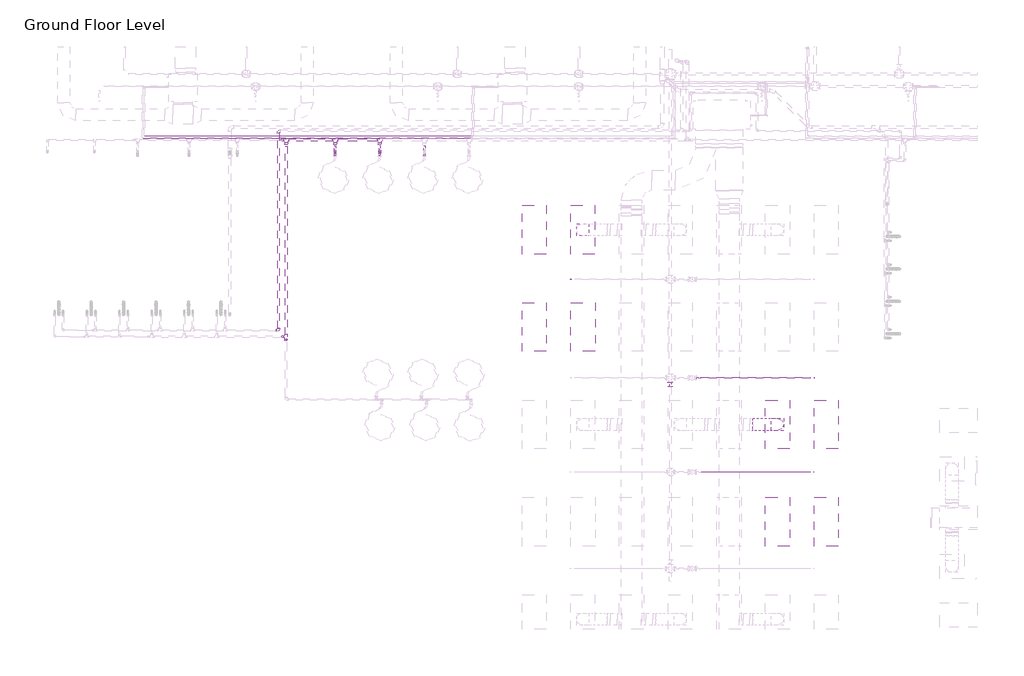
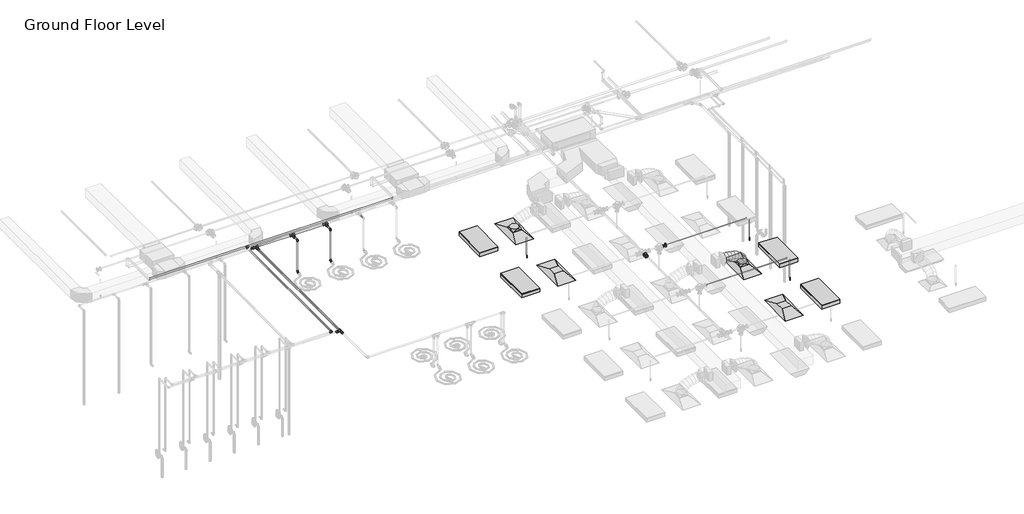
# One storey, part 47 of 72: 19 pipe segments, 18 pipe fittings, 4 air terminals, 4 light fixtures, 3 fire suppression terminals, 2 duct fittings, 1 duct segment.
"""IFC4 building model written with IfcOpenShell, lengths in millimetres."""

from ifc_helpers import new_model, si_unit, point, frame, frame_2d, origin, place, context, project, spatial, circle_curve, ellipse_curve, trimmed, segment, composite_curve, outline, extrude, transform, mapped, element, save
from ifc_brep_helpers import plane_surface, cylinder_surface, advanced_brep
from components import m_return_diffuser_1200x600_1200_x_600_face_300_x_300_d1983ef6, m_rectangular_to_round_transition_angle_45_degree_641efff0, m_sprinkler_dry_pendent_hosted_15_mm_dry_pendent_9bda8e11, m_troffer_light_parabolic_rectangular1_0600x1200mm_4_lamp_86473d4a, m_reducer_flanged_cs_class_150_standard_d42b2106, m_reducer_flanged_cs_class_150_standard_564df86d, standard_517a5a8d, standard_cd25fed3, standard_f1337950, standard_5079833c, standard_92e3b147, standard_bbae78af, standard_69e4ce0e, standard_a995ec02

model = new_model("IFC4")

# Units and contexts
model_context = context("Model", 3, world=origin())
ifc_project = project(units=[si_unit("LENGTHUNIT", "METRE", prefix="MILLI")], contexts=[model_context])

# Site, building, storey
site = spatial("IfcSite", under=ifc_project)
building = spatial("IfcBuilding", under=site)
storey = spatial("IfcBuildingStorey", under=building, Name="Ground Floor Level", Elevation=900.0)

# Air terminals
placement = place(None, origin())
m_return_diffuser_1200x600_1200_x_600_face_300_x_300_shape = m_return_diffuser_1200x600_1200_x_600_face_300_x_300_d1983ef6(model_context)
element("IfcAirTerminal", 1, ObjectType="M_Return Diffuser 1200x600 : 1200 x 600 Face 300 x 300 Connection", at=placement, inside=storey, context=model_context, shape_type="MappedRepresentation", body=[
    mapped(m_return_diffuser_1200x600_1200_x_600_face_300_x_300_shape, transform((-8137.2327605, 8835.2153534, 3650.0), x_axis=(0.0, 1.0, 0.0), y_axis=(-1.0, 0.0, 0.0), z_axis=(0.0, 0.0, 1.0))),
])
element("IfcAirTerminal", 2, ObjectType="M_Return Diffuser 1200x600 : 1200 x 600 Face 300 x 300 Connection", at=placement, inside=storey, context=model_context, shape_type="MappedRepresentation", body=[
    mapped(m_return_diffuser_1200x600_1200_x_600_face_300_x_300_shape, transform((-3337.2327605, 4035.2153534, 3650.0), x_axis=(0.0, 1.0, 0.0), y_axis=(-1.0, 0.0, 0.0), z_axis=(0.0, 0.0, 1.0))),
])
element("IfcAirTerminal", 3, ObjectType="M_Supply Diffuser 1200x600 : 1200 x 600 Face 300 x 300 Connection", at=placement, inside=storey, context=model_context, shape_type="MappedRepresentation", body=[
    mapped(m_return_diffuser_1200x600_1200_x_600_face_300_x_300_shape, transform((-8142.6846929, 11235.2153534, 3650.0), x_axis=(0.0, 1.0, 0.0), y_axis=(-1.0, 0.0, 0.0), z_axis=(0.0, 0.0, 1.0))),
])
element("IfcAirTerminal", 4, ObjectType="M_Supply Diffuser 1200x600 : 1200 x 600 Face 300 x 300 Connection", at=placement, inside=storey, context=model_context, shape_type="MappedRepresentation", body=[
    mapped(m_return_diffuser_1200x600_1200_x_600_face_300_x_300_shape, transform((-3337.2327605, 6435.2153534, 3650.0), x_axis=(0.0, 1.0, 0.0), y_axis=(-1.0, 0.0, 0.0), z_axis=(0.0, 0.0, 1.0))),
])

# Duct fittings
m_rectangular_to_round_transition_angle_45_degree_shape = m_rectangular_to_round_transition_angle_45_degree_641efff0(model_context)
element("IfcDuctFitting", 5, ObjectType="M_Rectangular to Round Transition - Angle : 45 Degree", at=placement, inside=storey, context=model_context, shape_type="MappedRepresentation", body=[
    mapped(m_rectangular_to_round_transition_angle_45_degree_shape, transform((-8142.6846929, 11235.2153534, 3751.6), x_axis=(0.0, 0.0, 1.0), y_axis=(-1.0, 0.0, 0.0), z_axis=(0.0, -1.0, 0.0))),
])
element("IfcDuctFitting", 6, ObjectType="M_Rectangular to Round Transition - Angle : 45 Degree", at=placement, inside=storey, context=model_context, shape_type="MappedRepresentation", body=[
    mapped(m_rectangular_to_round_transition_angle_45_degree_shape, transform((-3337.2327605, 6435.2153534, 3751.6), x_axis=(0.0, 0.0, 1.0), y_axis=(-1.0, 0.0, 0.0), z_axis=(0.0, -1.0, 0.0))),
])

# Duct segment
element("IfcDuctSegment", 7, ObjectType="Flex - Round", at=placement, inside=storey, context=model_context, shape_type="AdvancedBrep", body=[
    advanced_brep(
    [(-3187.2327605, 6435.2153534, 3826.6), (-3337.2327605, 6285.2153534, 3826.6), (-3487.2327605, 6435.2153534, 3826.6), (-3337.2327605, 6585.2153534, 3826.6), (-3187.2327605, 6435.2153534, 3882.1255581), (-3337.2327605, 6285.2153534, 3857.3046173), (-3487.2327605, 6435.2153534, 3832.4836764), (-3337.2327605, 6585.2153534, 3857.3046173), (-3218.4253034, 6435.2153534, 3973.7974983), (-3353.8937102, 6285.2153534, 3906.2695763), (-3489.362117, 6435.2153534, 3838.7416543), (-3353.8937102, 6585.2153534, 3906.2695763), (-3288.1573657, 6435.2153534, 4076.409352), (-3399.7704918, 6285.2153534, 3973.7779999), (-3511.3836179, 6435.2153534, 3871.1466478), (-3399.7704918, 6585.2153534, 3973.7779999), (-3386.082926, 6435.2153534, 4155.7082221), (-3468.7040039, 6285.2153534, 4029.599479), (-3551.3250817, 6435.2153534, 3903.4907359), (-3468.7040039, 6585.2153534, 4029.599479), (-3494.825089, 6435.2153534, 4212.2244369), (-3554.535145, 6285.2153534, 4074.2082221), (-3614.2452011, 6435.2153534, 3936.1920073), (-3554.535145, 6585.2153534, 4074.2082221), (-3609.1145825, 6435.2153534, 4252.3095878), (-3651.104814, 6285.2153534, 4108.0784374), (-3693.0950455, 6435.2153534, 3963.847287), (-3651.104814, 6585.2153534, 4108.0784374), (-3724.8435514, 6435.2153534, 4279.3180942), (-3752.2539093, 6285.2153534, 4131.6843333), (-3779.6642673, 6435.2153534, 3984.0505724), (-3752.2539093, 6585.2153534, 4131.6843333), (-3837.5009499, 6435.2153534, 4294.9499053), (-3851.8233297, 6285.2153534, 4145.500118), (-3866.1457095, 6435.2153534, 3996.0503308), (-3851.8233297, 6585.2153534, 4145.500118), (-3932.3208261, 6435.2153534, 4300.0), (-3936.312488, 6285.2153534, 4150.0), (-3940.3041499, 6435.2153534, 4000.0), (-3936.312488, 6585.2153534, 4150.0), (-3943.6539738, 6435.2153534, 4300.0), (-3943.6539738, 6585.2153534, 4150.0), (-3943.6539738, 6435.2153534, 4000.0), (-3943.6539738, 6285.2153534, 4150.0)],
    [
        (0, 1, circle_curve(frame((-3337.2327605, 6435.2153534, 3826.6), z_axis=(0.0, 0.0, -1.0), x_axis=(1.0, 0.0, 0.0)), 150.0)),
        (1, 2, circle_curve(frame((-3337.2327605, 6435.2153534, 3826.6), z_axis=(0.0, 0.0, -1.0), x_axis=(1.0, 0.0, 0.0)), 150.0)),
        (2, 3, circle_curve(frame((-3337.2327605, 6435.2153534, 3826.6), z_axis=(0.0, 0.0, -1.0), x_axis=(1.0, 0.0, 0.0)), 150.0)),
        (3, 0, circle_curve(frame((-3337.2327605, 6435.2153534, 3826.6), z_axis=(0.0, 0.0, -1.0), x_axis=(1.0, 0.0, 0.0)), 150.0)),
        (0, 4),
        (4, 5, ellipse_curve(frame((-3337.2327605, 6435.2153534, 3857.3046173), z_axis=(0.16325299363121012, 0.0, -0.9865842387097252), x_axis=(-0.9865842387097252, 0.0, -0.16325299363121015)), 152.0397287, 150.0)),
        (5, 1),
        (5, 6, ellipse_curve(frame((-3337.2327605, 6435.2153534, 3857.3046173), z_axis=(0.16325299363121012, 0.0, -0.9865842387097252), x_axis=(-0.9865842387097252, 0.0, -0.16325299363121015)), 152.0397287, 150.0)),
        (6, 2),
        (6, 7, ellipse_curve(frame((-3337.2327605, 6435.2153534, 3857.3046173), z_axis=(0.16325299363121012, 0.0, -0.9865842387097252), x_axis=(-0.9865842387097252, 0.0, -0.16325299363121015)), 152.0397287, 150.0)),
        (7, 3),
        (7, 4, ellipse_curve(frame((-3337.2327605, 6435.2153534, 3857.3046173), z_axis=(0.16325299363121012, 0.0, -0.9865842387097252), x_axis=(-0.9865842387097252, 0.0, -0.16325299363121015)), 152.0397287, 150.0)),
        (4, 8),
        (8, 9, ellipse_curve(frame((-3353.8937102, 6435.2153534, 3906.2695763), z_axis=(0.446123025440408, 0.0, -0.894971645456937), x_axis=(-0.8949716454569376, 0.0, -0.44612302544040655)), 151.3661438, 150.0)),
        (9, 5),
        (9, 10, ellipse_curve(frame((-3353.8937102, 6435.2153534, 3906.2695763), z_axis=(0.446123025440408, 0.0, -0.894971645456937), x_axis=(-0.8949716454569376, 0.0, -0.44612302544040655)), 151.3661438, 150.0)),
        (10, 6),
        (10, 11, ellipse_curve(frame((-3353.8937102, 6435.2153534, 3906.2695763), z_axis=(0.446123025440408, 0.0, -0.894971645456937), x_axis=(-0.8949716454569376, 0.0, -0.44612302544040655)), 151.3661438, 150.0)),
        (11, 7),
        (11, 8, ellipse_curve(frame((-3353.8937102, 6435.2153534, 3906.2695763), z_axis=(0.446123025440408, 0.0, -0.894971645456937), x_axis=(-0.8949716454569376, 0.0, -0.44612302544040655)), 151.3661438, 150.0)),
        (8, 12),
        (12, 13, ellipse_curve(frame((-3399.7704918, 6435.2153534, 3973.7779999), z_axis=(0.6768681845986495, 0.0, -0.7361042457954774), x_axis=(-0.7361042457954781, 0.0, -0.6768681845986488)), 151.626793, 150.0)),
        (13, 9),
        (13, 14, ellipse_curve(frame((-3399.7704918, 6435.2153534, 3973.7779999), z_axis=(0.6768681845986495, 0.0, -0.7361042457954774), x_axis=(-0.7361042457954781, 0.0, -0.6768681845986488)), 151.626793, 150.0)),
        (14, 10),
        (14, 15, ellipse_curve(frame((-3399.7704918, 6435.2153534, 3973.7779999), z_axis=(0.6768681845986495, 0.0, -0.7361042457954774), x_axis=(-0.7361042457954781, 0.0, -0.6768681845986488)), 151.626793, 150.0)),
        (15, 11),
        (15, 12, ellipse_curve(frame((-3399.7704918, 6435.2153534, 3973.7779999), z_axis=(0.6768681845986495, 0.0, -0.7361042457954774), x_axis=(-0.7361042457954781, 0.0, -0.6768681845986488)), 151.626793, 150.0)),
        (12, 16),
        (16, 17, ellipse_curve(frame((-3468.7040039, 6435.2153534, 4029.599479), z_axis=(0.8364668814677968, 0.0, -0.5480174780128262), x_axis=(-0.5480174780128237, 0.0, -0.8364668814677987)), 150.7635818, 150.0)),
        (17, 13),
        (17, 18, ellipse_curve(frame((-3468.7040039, 6435.2153534, 4029.599479), z_axis=(0.8364668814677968, 0.0, -0.5480174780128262), x_axis=(-0.5480174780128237, 0.0, -0.8364668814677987)), 150.7635818, 150.0)),
        (18, 14),
        (18, 19, ellipse_curve(frame((-3468.7040039, 6435.2153534, 4029.599479), z_axis=(0.8364668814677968, 0.0, -0.5480174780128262), x_axis=(-0.5480174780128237, 0.0, -0.8364668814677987)), 150.7635818, 150.0)),
        (19, 15),
        (19, 16, ellipse_curve(frame((-3468.7040039, 6435.2153534, 4029.599479), z_axis=(0.8364668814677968, 0.0, -0.5480174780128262), x_axis=(-0.5480174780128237, 0.0, -0.8364668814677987)), 150.7635818, 150.0)),
        (16, 20),
        (20, 21, ellipse_curve(frame((-3554.535145, 6435.2153534, 4074.2082221), z_axis=(0.9177907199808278, 0.0, -0.3970644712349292), x_axis=(-0.3970644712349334, 0.0, -0.917790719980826)), 150.378743, 150.0)),
        (21, 17),
        (21, 22, ellipse_curve(frame((-3554.535145, 6435.2153534, 4074.2082221), z_axis=(0.9177907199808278, 0.0, -0.3970644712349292), x_axis=(-0.3970644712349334, 0.0, -0.917790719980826)), 150.378743, 150.0)),
        (22, 18),
        (22, 23, ellipse_curve(frame((-3554.535145, 6435.2153534, 4074.2082221), z_axis=(0.9177907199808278, 0.0, -0.3970644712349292), x_axis=(-0.3970644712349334, 0.0, -0.917790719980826)), 150.378743, 150.0)),
        (23, 19),
        (23, 20, ellipse_curve(frame((-3554.535145, 6435.2153534, 4074.2082221), z_axis=(0.9177907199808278, 0.0, -0.3970644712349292), x_axis=(-0.3970644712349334, 0.0, -0.917790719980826)), 150.378743, 150.0)),
        (20, 24),
        (24, 25, ellipse_curve(frame((-3651.104814, 6435.2153534, 4108.0784374), z_axis=(0.9601380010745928, 0.0, -0.2795264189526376), x_axis=(-0.2795264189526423, 0.0, -0.9601380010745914)), 150.2191875, 150.0)),
        (25, 21),
        (25, 26, ellipse_curve(frame((-3651.104814, 6435.2153534, 4108.0784374), z_axis=(0.9601380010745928, 0.0, -0.2795264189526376), x_axis=(-0.2795264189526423, 0.0, -0.9601380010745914)), 150.2191875, 150.0)),
        (26, 22),
        (26, 27, ellipse_curve(frame((-3651.104814, 6435.2153534, 4108.0784374), z_axis=(0.9601380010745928, 0.0, -0.2795264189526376), x_axis=(-0.2795264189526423, 0.0, -0.9601380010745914)), 150.2191875, 150.0)),
        (27, 23),
        (27, 24, ellipse_curve(frame((-3651.104814, 6435.2153534, 4108.0784374), z_axis=(0.9601380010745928, 0.0, -0.2795264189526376), x_axis=(-0.2795264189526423, 0.0, -0.9601380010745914)), 150.2191875, 150.0)),
        (24, 28),
        (28, 29, ellipse_curve(frame((-3752.2539093, 6435.2153534, 4131.6843333), z_axis=(0.9831975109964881, 0.0, -0.18254493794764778), x_axis=(-0.18254493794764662, 0.0, -0.9831975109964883)), 150.1567684, 150.0)),
        (29, 25),
        (29, 30, ellipse_curve(frame((-3752.2539093, 6435.2153534, 4131.6843333), z_axis=(0.9831975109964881, 0.0, -0.18254493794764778), x_axis=(-0.18254493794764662, 0.0, -0.9831975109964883)), 150.1567684, 150.0)),
        (30, 26),
        (30, 31, ellipse_curve(frame((-3752.2539093, 6435.2153534, 4131.6843333), z_axis=(0.9831975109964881, 0.0, -0.18254493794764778), x_axis=(-0.18254493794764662, 0.0, -0.9831975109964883)), 150.1567684, 150.0)),
        (31, 27),
        (31, 28, ellipse_curve(frame((-3752.2539093, 6435.2153534, 4131.6843333), z_axis=(0.9831975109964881, 0.0, -0.18254493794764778), x_axis=(-0.18254493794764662, 0.0, -0.9831975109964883)), 150.1567684, 150.0)),
        (28, 32),
        (32, 33, ellipse_curve(frame((-3851.8233297, 6435.2153534, 4145.500118), z_axis=(0.9954393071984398, 0.0, -0.09539698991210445), x_axis=(-0.09539698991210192, 0.0, -0.99543930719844)), 150.1345046, 150.0)),
        (33, 29),
        (33, 34, ellipse_curve(frame((-3851.8233297, 6435.2153534, 4145.500118), z_axis=(0.9954393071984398, 0.0, -0.09539698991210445), x_axis=(-0.09539698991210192, 0.0, -0.99543930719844)), 150.1345046, 150.0)),
        (34, 30),
        (34, 35, ellipse_curve(frame((-3851.8233297, 6435.2153534, 4145.500118), z_axis=(0.9954393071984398, 0.0, -0.09539698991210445), x_axis=(-0.09539698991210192, 0.0, -0.99543930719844)), 150.1345046, 150.0)),
        (35, 31),
        (35, 32, ellipse_curve(frame((-3851.8233297, 6435.2153534, 4145.500118), z_axis=(0.9954393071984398, 0.0, -0.09539698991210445), x_axis=(-0.09539698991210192, 0.0, -0.99543930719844)), 150.1345046, 150.0)),
        (32, 36),
        (36, 37, ellipse_curve(frame((-3936.312488, 6435.2153534, 4150.0), z_axis=(0.9996461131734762, 0.0, -0.02660166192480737), x_axis=(-0.026601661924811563, 0.0, -0.9996461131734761)), 150.0531018, 150.0)),
        (37, 33),
        (37, 38, ellipse_curve(frame((-3936.312488, 6435.2153534, 4150.0), z_axis=(0.9996461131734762, 0.0, -0.02660166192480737), x_axis=(-0.026601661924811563, 0.0, -0.9996461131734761)), 150.0531018, 150.0)),
        (38, 34),
        (38, 39, ellipse_curve(frame((-3936.312488, 6435.2153534, 4150.0), z_axis=(0.9996461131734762, 0.0, -0.02660166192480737), x_axis=(-0.026601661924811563, 0.0, -0.9996461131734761)), 150.0531018, 150.0)),
        (39, 35),
        (39, 36, ellipse_curve(frame((-3936.312488, 6435.2153534, 4150.0), z_axis=(0.9996461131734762, 0.0, -0.02660166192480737), x_axis=(-0.026601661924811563, 0.0, -0.9996461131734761)), 150.0531018, 150.0)),
        (40, 41, circle_curve(frame((-3943.6539738, 6435.2153534, 4150.0), z_axis=(-1.0, 0.0, 0.0), x_axis=(0.0, 0.0, 1.0)), 150.0)),
        (41, 42, circle_curve(frame((-3943.6539738, 6435.2153534, 4150.0), z_axis=(-1.0, 0.0, 0.0), x_axis=(0.0, 0.0, 1.0)), 150.0)),
        (42, 43, circle_curve(frame((-3943.6539738, 6435.2153534, 4150.0), z_axis=(-1.0, 0.0, 0.0), x_axis=(0.0, 0.0, 1.0)), 150.0)),
        (43, 40, circle_curve(frame((-3943.6539738, 6435.2153534, 4150.0), z_axis=(-1.0, 0.0, 0.0), x_axis=(0.0, 0.0, 1.0)), 150.0)),
        (36, 40),
        (43, 37),
        (42, 38),
        (41, 39),
    ],
    [
        plane_surface(frame((-3337.2327605, 6285.2153534, 3826.6), z_axis=(0.0, 0.0, -1.0), x_axis=(1.0, 0.0, 0.0))),
        cylinder_surface(frame((-3337.2327605, 6435.2153534, 3826.6), z_axis=(0.0, 0.0, -1.0), x_axis=(1.0, 0.0, 0.0)), 150.0),
        cylinder_surface(frame((-3337.2327605, 6435.2153534, 3857.3046173), z_axis=(0.3221256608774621, 0.0, -0.9466969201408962), x_axis=(0.9466969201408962, 0.0, 0.3221256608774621)), 150.0),
        cylinder_surface(frame((-3353.8937102, 6435.2153534, 3906.2695763), z_axis=(0.5620674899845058, 0.0, -0.8270913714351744), x_axis=(0.8270913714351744, 0.0, 0.5620674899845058)), 150.0),
        cylinder_surface(frame((-3399.7704918, 6435.2153534, 3973.7779999), z_axis=(0.7771447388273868, 0.0, -0.6293219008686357), x_axis=(0.6293219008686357, 0.0, 0.7771447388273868)), 150.0),
        cylinder_surface(frame((-3468.7040039, 6435.2153534, 4029.599479), z_axis=(0.8873160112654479, 0.0, -0.4611618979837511), x_axis=(0.4611618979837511, 0.0, 0.8873160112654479)), 150.0),
        cylinder_surface(frame((-3554.535145, 6435.2153534, 4074.2082221), z_axis=(0.9436423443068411, 0.0, -0.3309669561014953), x_axis=(0.3309669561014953, 0.0, 0.9436423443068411)), 150.0),
        cylinder_surface(frame((-3651.104814, 6435.2153534, 4108.0784374), z_axis=(0.973831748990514, 0.0, -0.22727015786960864), x_axis=(0.22727015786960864, 0.0, 0.973831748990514)), 150.0),
        cylinder_surface(frame((-3752.2539093, 6435.2153534, 4131.6843333), z_axis=(0.9905102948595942, 0.0, -0.1374385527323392), x_axis=(0.1374385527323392, 0.0, 0.9905102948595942)), 150.0),
        cylinder_surface(frame((-3851.8233297, 6435.2153534, 4145.500118), z_axis=(0.9985847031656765, 0.0, -0.05318449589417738), x_axis=(0.05318449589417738, 0.0, 0.9985847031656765)), 150.0),
        plane_surface(frame((-3943.6539738, 6435.2153534, 4000.0), z_axis=(-1.0, 0.0, 0.0), x_axis=(0.0, -1.0, 0.0))),
        cylinder_surface(frame((-3936.312488, 6435.2153534, 4150.0), z_axis=(1.0, 0.0, 0.0), x_axis=(0.0, 0.0, 1.0)), 150.0),
    ],
    [
        (0, [[1, 2, 3, 4]]),
        (1, [[-1, 5, 6, 7]]),
        (1, [[-2, -7, 8, 9]]),
        (1, [[-3, -9, 10, 11]]),
        (1, [[-4, -11, 12, -5]]),
        (2, [[-6, 13, 14, 15]]),
        (2, [[-8, -15, 16, 17]]),
        (2, [[-10, -17, 18, 19]]),
        (2, [[-12, -19, 20, -13]]),
        (3, [[-14, 21, 22, 23]]),
        (3, [[-16, -23, 24, 25]]),
        (3, [[-18, -25, 26, 27]]),
        (3, [[-20, -27, 28, -21]]),
        (4, [[-22, 29, 30, 31]]),
        (4, [[-24, -31, 32, 33]]),
        (4, [[-26, -33, 34, 35]]),
        (4, [[-28, -35, 36, -29]]),
        (5, [[-30, 37, 38, 39]]),
        (5, [[-32, -39, 40, 41]]),
        (5, [[-34, -41, 42, 43]]),
        (5, [[-36, -43, 44, -37]]),
        (6, [[-38, 45, 46, 47]]),
        (6, [[-40, -47, 48, 49]]),
        (6, [[-42, -49, 50, 51]]),
        (6, [[-44, -51, 52, -45]]),
        (7, [[-46, 53, 54, 55]]),
        (7, [[-48, -55, 56, 57]]),
        (7, [[-50, -57, 58, 59]]),
        (7, [[-52, -59, 60, -53]]),
        (8, [[-54, 61, 62, 63]]),
        (8, [[-56, -63, 64, 65]]),
        (8, [[-58, -65, 66, 67]]),
        (8, [[-60, -67, 68, -61]]),
        (9, [[-62, 69, 70, 71]]),
        (9, [[-64, -71, 72, 73]]),
        (9, [[-66, -73, 74, 75]]),
        (9, [[-68, -75, 76, -69]]),
        (10, [[77, 78, 79, 80]]),
        (11, [[-70, 81, -80, 82]]),
        (11, [[-72, -82, -79, 83]]),
        (11, [[-74, -83, -78, 84]]),
        (11, [[-76, -84, -77, -81]]),
    ],
),
])

# Fire suppression terminals
m_sprinkler_dry_pendent_hosted_15_mm_dry_pendent_shape = m_sprinkler_dry_pendent_hosted_15_mm_dry_pendent_9bda8e11(model_context)
element("IfcFireSuppressionTerminal", 8, ObjectType="M_Sprinkler - Dry - Pendent - Hosted : 15 mm Dry Pendent", at=placement, inside=storey, context=model_context, shape_type="MappedRepresentation", body=[
    mapped(m_sprinkler_dry_pendent_hosted_15_mm_dry_pendent_shape, transform((-8437.2327605, 10013.008259, 3650.0), x_axis=(1.0, 0.0, 0.0), y_axis=(0.0, -1.0, 0.0), z_axis=(0.0, 0.0, -1.0))),
])
element("IfcFireSuppressionTerminal", 9, ObjectType="M_Sprinkler - Dry - Pendent - Hosted : 15 mm Dry Pendent", at=placement, inside=storey, context=model_context, shape_type="MappedRepresentation", body=[
    mapped(m_sprinkler_dry_pendent_hosted_15_mm_dry_pendent_shape, transform((-2437.2327605, 7582.7040742, 3650.0), x_axis=(1.0, 0.0, 0.0), y_axis=(0.0, -1.0, 0.0), z_axis=(0.0, 0.0, -1.0))),
])
element("IfcFireSuppressionTerminal", 10, ObjectType="M_Sprinkler - Dry - Pendent - Hosted : 15 mm Dry Pendent", at=placement, inside=storey, context=model_context, shape_type="MappedRepresentation", body=[
    mapped(m_sprinkler_dry_pendent_hosted_15_mm_dry_pendent_shape, transform((-2437.2327605, 5261.0372753, 3650.0), x_axis=(1.0, 0.0, 0.0), y_axis=(0.0, -1.0, 0.0), z_axis=(0.0, 0.0, -1.0))),
])

# Light fixtures
m_troffer_light_parabolic_rectangular1_0600x1200mm_4_lamp_shape = m_troffer_light_parabolic_rectangular1_0600x1200mm_4_lamp_86473d4a(model_context)
element("IfcLightFixture", 11, ObjectType="M_Troffer Light - Parabolic Rectangular1 : 0600x1200mm(4 Lamp) - 277V 2", at=placement, inside=storey, context=model_context, shape_type="MappedRepresentation", body=[
    mapped(m_troffer_light_parabolic_rectangular1_0600x1200mm_4_lamp_shape, transform((-9396.6986926, 11253.918855, 3650.0), x_axis=(0.0, 1.0, 0.0), y_axis=(-1.0, 0.0, 0.0), z_axis=(0.0, 0.0, 1.0))),
])
element("IfcLightFixture", 12, ObjectType="M_Troffer Light - Parabolic Rectangular1 : 0600x1200mm(4 Lamp) - 277V 2", at=placement, inside=storey, context=model_context, shape_type="MappedRepresentation", body=[
    mapped(m_troffer_light_parabolic_rectangular1_0600x1200mm_4_lamp_shape, transform((-9396.6986926, 8853.918855, 3650.0), x_axis=(0.0, 1.0, 0.0), y_axis=(-1.0, 0.0, 0.0), z_axis=(0.0, 0.0, 1.0))),
])
element("IfcLightFixture", 13, ObjectType="M_Troffer Light - Parabolic Rectangular1 : 0600x1200mm(4 Lamp) - 277V 2", at=placement, inside=storey, context=model_context, shape_type="MappedRepresentation", body=[
    mapped(m_troffer_light_parabolic_rectangular1_0600x1200mm_4_lamp_shape, transform((-2196.6986926, 6453.918855, 3650.0), x_axis=(0.0, 1.0, 0.0), y_axis=(-1.0, 0.0, 0.0), z_axis=(0.0, 0.0, 1.0))),
])
element("IfcLightFixture", 14, ObjectType="M_Troffer Light - Parabolic Rectangular1 : 0600x1200mm(4 Lamp) - 277V 2", at=placement, inside=storey, context=model_context, shape_type="MappedRepresentation", body=[
    mapped(m_troffer_light_parabolic_rectangular1_0600x1200mm_4_lamp_shape, transform((-2196.6986926, 4053.918855, 3650.0), x_axis=(0.0, 1.0, 0.0), y_axis=(-1.0, 0.0, 0.0), z_axis=(0.0, 0.0, 1.0))),
])

# Pipe fittings
m_reducer_flanged_cs_class_150_standard_shape = m_reducer_flanged_cs_class_150_standard_d42b2106(model_context)
element("IfcPipeFitting", 15, ObjectType="M_Reducer - Flanged - CS - Class 150 : Standard", at=placement, inside=storey, context=model_context, shape_type="MappedRepresentation", body=[
    mapped(m_reducer_flanged_cs_class_150_standard_shape, transform((-5336.5241668, 7582.7040742, 4360.0), x_axis=(1.0, 0.0, 0.0), y_axis=(0.0, 1.0, 0.0), z_axis=(0.0, 0.0, 1.0))),
])
m_reducer_flanged_cs_class_150_standard_2_shape = m_reducer_flanged_cs_class_150_standard_564df86d(model_context)
element("IfcPipeFitting", 16, ObjectType="M_Reducer - Flanged - CS - Class 150 : Standard", at=placement, inside=storey, context=model_context, shape_type="MappedRepresentation", body=[
    mapped(m_reducer_flanged_cs_class_150_standard_2_shape, transform((-5978.130502, 7480.7040742, 4360.0), x_axis=(0.0, -1.0, 0.0), y_axis=(1.0, 0.0, 0.0), z_axis=(0.0, 0.0, 1.0))),
])
standard_shape = standard_517a5a8d(model_context)
element("IfcPipeFitting", 17, ObjectType="M_Elbow - CPVC - Sch 40 : Standard", at=placement, inside=storey, context=model_context, shape_type="MappedRepresentation", body=[
    mapped(standard_shape, transform((-14247.2327605, 13150.8347997, 3200.0), x_axis=(0.0, 1.0, 0.0), y_axis=(0.0, 0.0, 1.0), z_axis=(1.0, 0.0, 0.0))),
])
element("IfcPipeFitting", 18, ObjectType="M_Elbow - CPVC - Sch 40 : Standard", at=placement, inside=storey, context=model_context, shape_type="MappedRepresentation", body=[
    mapped(standard_shape, transform((-14247.2327605, 13150.8347997, 4315.0), x_axis=(0.0, 0.0, 1.0), y_axis=(0.0, 1.0, 0.0), z_axis=(-1.0, 0.0, 0.0))),
])
element("IfcPipeFitting", 19, ObjectType="M_Elbow - CPVC - Sch 40 : Standard", at=placement, inside=storey, context=model_context, shape_type="MappedRepresentation", body=[
    mapped(standard_shape, transform((-13147.2327605, 13150.8347997, 4315.0), x_axis=(0.0, 0.0, 1.0), y_axis=(0.0, 1.0, 0.0), z_axis=(-1.0, 0.0, 0.0))),
])
element("IfcPipeFitting", 20, ObjectType="M_Elbow - CPVC - Sch 40 : Standard", at=placement, inside=storey, context=model_context, shape_type="MappedRepresentation", body=[
    mapped(standard_shape, transform((-13147.2327605, 13150.8347997, 3200.0), x_axis=(0.0, 0.0, -1.0), y_axis=(0.0, -1.0, 0.0), z_axis=(-1.0, 0.0, 0.0))),
])
standard_2_shape = standard_cd25fed3(model_context)
element("IfcPipeFitting", 21, ObjectType="M_Tee - CPVC - Sch 40 : Standard", at=placement, inside=storey, context=model_context, shape_type="MappedRepresentation", body=[
    mapped(standard_2_shape, transform((-14247.2327605, 13449.9865561, 4315.0), x_axis=(-1.0, 0.0, 0.0), y_axis=(0.0, 1.0, 0.0), z_axis=(0.0, 0.0, -1.0))),
])
element("IfcPipeFitting", 22, ObjectType="M_Tee - CPVC - Sch 40 : Standard", at=placement, inside=storey, context=model_context, shape_type="MappedRepresentation", body=[
    mapped(standard_2_shape, transform((-13147.2327605, 13449.9865561, 4315.0), x_axis=(-1.0, 0.0, 0.0), y_axis=(0.0, 1.0, 0.0), z_axis=(0.0, 0.0, -1.0))),
])
element("IfcPipeFitting", 23, ObjectType="M_Tee - CPVC - Sch 40 : Standard", at=placement, inside=storey, context=model_context, shape_type="MappedRepresentation", body=[
    mapped(standard_2_shape, transform((-15455.6408298, 13449.9865561, 4315.0), x_axis=(-1.0, 0.0, 0.0), y_axis=(0.0, 1.0, 0.0), z_axis=(0.0, 0.0, -1.0))),
])
standard_3_shape = standard_f1337950(model_context)
element("IfcPipeFitting", 24, ObjectType="M_Coupling Reducing - CPVC - Sch 40 : Standard", at=placement, inside=storey, context=model_context, shape_type="MappedRepresentation", body=[
    mapped(standard_3_shape, transform((-14247.2327605, 13383.3115561, 4315.0), x_axis=(0.0, -1.0, 0.0), y_axis=(1.0, 0.0, 0.0), z_axis=(0.0, 0.0, 1.0))),
])
element("IfcPipeFitting", 25, ObjectType="M_Coupling Reducing - CPVC - Sch 40 : Standard", at=placement, inside=storey, context=model_context, shape_type="MappedRepresentation", body=[
    mapped(standard_3_shape, transform((-13147.2327605, 13383.3115561, 4315.0), x_axis=(0.0, -1.0, 0.0), y_axis=(1.0, 0.0, 0.0), z_axis=(0.0, 0.0, 1.0))),
])
standard_4_shape = standard_5079833c(model_context)
element("IfcPipeFitting", 26, ObjectType="M_Coupling Reducing - CPVC - Sch 40 : Standard", at=placement, inside=storey, context=model_context, shape_type="MappedRepresentation", body=[
    mapped(standard_4_shape, transform((-15522.3158298, 13449.9865561, 4315.0), x_axis=(-1.0, 0.0, 0.0), y_axis=(0.0, -1.0, 0.0), z_axis=(0.0, 0.0, 1.0))),
])
standard_5_shape = standard_92e3b147(model_context)
element("IfcPipeFitting", 27, ObjectType="M_Coupling Reducing - CPVC - Sch 40 : Standard", at=placement, inside=storey, context=model_context, shape_type="MappedRepresentation", body=[
    mapped(standard_5_shape, transform((-15455.6408298, 13383.3115561, 4315.0), x_axis=(0.0, -1.0, 0.0), y_axis=(1.0, 0.0, 0.0), z_axis=(0.0, 0.0, 1.0))),
])
standard_6_shape = standard_bbae78af(model_context)
element("IfcPipeFitting", 28, ObjectType="M_Tee - CPVC - Sch 40 : Standard", at=placement, inside=storey, context=model_context, shape_type="MappedRepresentation", body=[
    mapped(standard_6_shape, transform((-15455.6408298, 8599.9071734, 4315.0), x_axis=(0.0, 1.0, 0.0), y_axis=(1.0, 0.0, 0.0), z_axis=(0.0, 0.0, -1.0))),
])
standard_7_shape = standard_69e4ce0e(model_context)
element("IfcPipeFitting", 29, ObjectType="M_Elbow - CPVC - Sch 40 : Standard", at=placement, inside=storey, context=model_context, shape_type="MappedRepresentation", body=[
    mapped(standard_7_shape, transform((-15642.8173674, 8755.2153534, 4250.0), x_axis=(1.0, 0.0, 0.0), y_axis=(0.0, 1.0, 0.0), z_axis=(0.0, 0.0, 1.0))),
])
element("IfcPipeFitting", 30, ObjectType="M_Elbow - CPVC - Sch 40 : Standard", at=placement, inside=storey, context=model_context, shape_type="MappedRepresentation", body=[
    mapped(standard_7_shape, transform((-15642.8173674, 13675.2153534, 4250.0), x_axis=(-1.0, 0.0, 0.0), y_axis=(0.0, -1.0, 0.0), z_axis=(0.0, 0.0, 1.0))),
])
standard_8_shape = standard_a995ec02(model_context)
element("IfcPipeFitting", 31, ObjectType="M_Coupling Reducing - CPVC - Sch 40 : Standard", at=placement, inside=storey, context=model_context, shape_type="MappedRepresentation", body=[
    mapped(standard_8_shape, transform((-15455.6408298, 8541.1569734, 4315.0), x_axis=(0.0, -1.0, 0.0), y_axis=(1.0, 0.0, 0.0), z_axis=(0.0, 0.0, 1.0))),
])
element("IfcPipeFitting", 32, ObjectType="M_Coupling Reducing - CPVC - Sch 40 : Standard", at=placement, inside=storey, context=model_context, shape_type="MappedRepresentation", body=[
    mapped(standard_8_shape, transform((-15514.3910298, 8599.9071734, 4315.0), x_axis=(-1.0, 0.0, 0.0), y_axis=(0.0, -1.0, 0.0), z_axis=(0.0, 0.0, 1.0))),
])

# Pipe segments
element("IfcPipeSegment", 33, ObjectType="CPVC", at=placement, inside=storey, context=model_context, shape_type="SweptSolid", body=[
    extrude(outline(composite_curve([segment(trimmed(circle_curve(frame_2d((3200.0, -14247.2327605)), 16.7005), [point((3200.0, -14230.5322605))], [point((3216.7005, -14247.2327605))], False, "CARTESIAN"), True, "CONTINUOUS"), segment(trimmed(circle_curve(frame_2d((3200.0, -14247.2327605)), 16.7005), [point((3216.7005, -14247.2327605))], [point((3200.0, -14263.9332605))], False, "CARTESIAN"), True, "CONTINUOUS"), segment(trimmed(circle_curve(frame_2d((3200.0, -14247.2327605)), 16.7005), [point((3200.0, -14263.9332605))], [point((3183.2995, -14247.2327605))], False, "CARTESIAN"), True, "CONTINUOUS"), segment(trimmed(circle_curve(frame_2d((3200.0, -14247.2327605)), 16.7005), [point((3183.2995, -14247.2327605))], [point((3200.0, -14230.5322605))], False, "CARTESIAN"), True, "CONTINUOUS")], self_intersect=False)), frame((0.0, 13056.8347997, 0.0), z_axis=(0.0, 1.0, 0.0), x_axis=(0.0, 0.0, 1.0)), (0.0, 0.0, 1.0), 50.73745),
])
element("IfcPipeSegment", 34, ObjectType="CPVC", at=placement, inside=storey, context=model_context, shape_type="SweptSolid", body=[
    extrude(outline(composite_curve([segment(trimmed(circle_curve(frame_2d((4315.0, -14247.2327605)), 16.7005), [point((4315.0, -14230.5322605))], [point((4331.7005, -14247.2327605))], False, "CARTESIAN"), True, "CONTINUOUS"), segment(trimmed(circle_curve(frame_2d((4315.0, -14247.2327605)), 16.7005), [point((4331.7005, -14247.2327605))], [point((4315.0, -14263.9332605))], False, "CARTESIAN"), True, "CONTINUOUS"), segment(trimmed(circle_curve(frame_2d((4315.0, -14247.2327605)), 16.7005), [point((4315.0, -14263.9332605))], [point((4298.2995, -14247.2327605))], False, "CARTESIAN"), True, "CONTINUOUS"), segment(trimmed(circle_curve(frame_2d((4315.0, -14247.2327605)), 16.7005), [point((4298.2995, -14247.2327605))], [point((4315.0, -14230.5322605))], False, "CARTESIAN"), True, "CONTINUOUS")], self_intersect=False)), frame((0.0, 13194.0973497, 0.0), z_axis=(0.0, 1.0, 0.0), x_axis=(0.0, 0.0, 1.0)), (0.0, 0.0, 1.0), 109.4153315),
])
element("IfcPipeSegment", 35, ObjectType="CPVC", at=placement, inside=storey, context=model_context, shape_type="SweptSolid", body=[
    extrude(outline(composite_curve([segment(trimmed(circle_curve(frame_2d((-14247.2327605, 13150.8347997)), 16.7005), [point((-14263.9332605, 13150.8347997))], [point((-14247.2327605, 13167.5352997))], False, "CARTESIAN"), True, "CONTINUOUS"), segment(trimmed(circle_curve(frame_2d((-14247.2327605, 13150.8347997)), 16.7005), [point((-14247.2327605, 13167.5352997))], [point((-14230.5322605, 13150.8347997))], False, "CARTESIAN"), True, "CONTINUOUS"), segment(trimmed(circle_curve(frame_2d((-14247.2327605, 13150.8347997)), 16.7005), [point((-14230.5322605, 13150.8347997))], [point((-14247.2327605, 13134.1342997))], False, "CARTESIAN"), True, "CONTINUOUS"), segment(trimmed(circle_curve(frame_2d((-14247.2327605, 13150.8347997)), 16.7005), [point((-14247.2327605, 13134.1342997))], [point((-14263.9332605, 13150.8347997))], False, "CARTESIAN"), True, "CONTINUOUS")], self_intersect=False)), frame((0.0, 0.0, 3243.26255), z_axis=(0.0, 0.0, 1.0), x_axis=(1.0, 0.0, 0.0)), (0.0, 0.0, 1.0), 1028.4749),
])
element("IfcPipeSegment", 36, ObjectType="CPVC", at=placement, inside=storey, context=model_context, shape_type="SweptSolid", body=[
    extrude(outline(composite_curve([segment(trimmed(circle_curve(frame_2d((3200.0, -13147.2327605)), 16.7005), [point((3200.0, -13163.9332605))], [point((3183.2995, -13147.2327605))], False, "CARTESIAN"), True, "CONTINUOUS"), segment(trimmed(circle_curve(frame_2d((3200.0, -13147.2327605)), 16.7005), [point((3183.2995, -13147.2327605))], [point((3200.0, -13130.5322605))], False, "CARTESIAN"), True, "CONTINUOUS"), segment(trimmed(circle_curve(frame_2d((3200.0, -13147.2327605)), 16.7005), [point((3200.0, -13130.5322605))], [point((3216.7005, -13147.2327605))], False, "CARTESIAN"), True, "CONTINUOUS"), segment(trimmed(circle_curve(frame_2d((3200.0, -13147.2327605)), 16.7005), [point((3216.7005, -13147.2327605))], [point((3200.0, -13163.9332605))], False, "CARTESIAN"), True, "CONTINUOUS")], self_intersect=False)), frame((0.0, 13056.8347997, 0.0), z_axis=(0.0, 1.0, 0.0), x_axis=(0.0, 0.0, 1.0)), (0.0, 0.0, 1.0), 50.73745),
])
element("IfcPipeSegment", 37, ObjectType="CPVC", at=placement, inside=storey, context=model_context, shape_type="SweptSolid", body=[
    extrude(outline(composite_curve([segment(trimmed(circle_curve(frame_2d((4315.0, -13147.2327605)), 16.7005), [point((4315.0, -13130.5322605))], [point((4331.7005, -13147.2327605))], False, "CARTESIAN"), True, "CONTINUOUS"), segment(trimmed(circle_curve(frame_2d((4315.0, -13147.2327605)), 16.7005), [point((4331.7005, -13147.2327605))], [point((4315.0, -13163.9332605))], False, "CARTESIAN"), True, "CONTINUOUS"), segment(trimmed(circle_curve(frame_2d((4315.0, -13147.2327605)), 16.7005), [point((4315.0, -13163.9332605))], [point((4298.2995, -13147.2327605))], False, "CARTESIAN"), True, "CONTINUOUS"), segment(trimmed(circle_curve(frame_2d((4315.0, -13147.2327605)), 16.7005), [point((4298.2995, -13147.2327605))], [point((4315.0, -13130.5322605))], False, "CARTESIAN"), True, "CONTINUOUS")], self_intersect=False)), frame((0.0, 13194.0973497, 0.0), z_axis=(0.0, 1.0, 0.0), x_axis=(0.0, 0.0, 1.0)), (0.0, 0.0, 1.0), 109.4153315),
])
element("IfcPipeSegment", 38, ObjectType="CPVC", at=placement, inside=storey, context=model_context, shape_type="SweptSolid", body=[
    extrude(outline(composite_curve([segment(trimmed(circle_curve(frame_2d((-13147.2327605, 13150.8347997)), 16.7005), [point((-13163.9332605, 13150.8347997))], [point((-13147.2327605, 13167.5352997))], False, "CARTESIAN"), True, "CONTINUOUS"), segment(trimmed(circle_curve(frame_2d((-13147.2327605, 13150.8347997)), 16.7005), [point((-13147.2327605, 13167.5352997))], [point((-13130.5322605, 13150.8347997))], False, "CARTESIAN"), True, "CONTINUOUS"), segment(trimmed(circle_curve(frame_2d((-13147.2327605, 13150.8347997)), 16.7005), [point((-13130.5322605, 13150.8347997))], [point((-13147.2327605, 13134.1342997))], False, "CARTESIAN"), True, "CONTINUOUS"), segment(trimmed(circle_curve(frame_2d((-13147.2327605, 13150.8347997)), 16.7005), [point((-13147.2327605, 13134.1342997))], [point((-13163.9332605, 13150.8347997))], False, "CARTESIAN"), True, "CONTINUOUS")], self_intersect=False)), frame((0.0, 0.0, 3243.26255), z_axis=(0.0, 0.0, 1.0), x_axis=(1.0, 0.0, 0.0)), (0.0, 0.0, 1.0), 1028.4749),
])
element("IfcPipeSegment", 39, ObjectType="CPVC", at=placement, inside=storey, context=model_context, shape_type="SweptSolid", body=[
    extrude(outline(composite_curve([segment(trimmed(circle_curve(frame_2d((3200.0, -12047.2327605)), 16.7005), [point((3200.0, -12063.9332605))], [point((3183.2995, -12047.2327605))], False, "CARTESIAN"), True, "CONTINUOUS"), segment(trimmed(circle_curve(frame_2d((3200.0, -12047.2327605)), 16.7005), [point((3183.2995, -12047.2327605))], [point((3200.0, -12030.5322605))], False, "CARTESIAN"), True, "CONTINUOUS"), segment(trimmed(circle_curve(frame_2d((3200.0, -12047.2327605)), 16.7005), [point((3200.0, -12030.5322605))], [point((3216.7005, -12047.2327605))], False, "CARTESIAN"), True, "CONTINUOUS"), segment(trimmed(circle_curve(frame_2d((3200.0, -12047.2327605)), 16.7005), [point((3216.7005, -12047.2327605))], [point((3200.0, -12063.9332605))], False, "CARTESIAN"), True, "CONTINUOUS")], self_intersect=False)), frame((0.0, 13056.8347997, 0.0), z_axis=(0.0, 1.0, 0.0), x_axis=(0.0, 0.0, 1.0)), (0.0, 0.0, 1.0), 50.73745),
])
element("IfcPipeSegment", 40, ObjectType="CPVC", at=placement, inside=storey, context=model_context, shape_type="SweptSolid", body=[
    extrude(outline(composite_curve([segment(trimmed(circle_curve(frame_2d((4315.0, -12047.2327605)), 16.7005), [point((4315.0, -12030.5322605))], [point((4331.7005, -12047.2327605))], False, "CARTESIAN"), True, "CONTINUOUS"), segment(trimmed(circle_curve(frame_2d((4315.0, -12047.2327605)), 16.7005), [point((4331.7005, -12047.2327605))], [point((4315.0, -12063.9332605))], False, "CARTESIAN"), True, "CONTINUOUS"), segment(trimmed(circle_curve(frame_2d((4315.0, -12047.2327605)), 16.7005), [point((4315.0, -12063.9332605))], [point((4298.2995, -12047.2327605))], False, "CARTESIAN"), True, "CONTINUOUS"), segment(trimmed(circle_curve(frame_2d((4315.0, -12047.2327605)), 16.7005), [point((4298.2995, -12047.2327605))], [point((4315.0, -12030.5322605))], False, "CARTESIAN"), True, "CONTINUOUS")], self_intersect=False)), frame((0.0, 13194.0973497, 0.0), z_axis=(0.0, 1.0, 0.0), x_axis=(0.0, 0.0, 1.0)), (0.0, 0.0, 1.0), 109.4153315),
])
element("IfcPipeSegment", 41, ObjectType="CPVC", at=placement, inside=storey, context=model_context, shape_type="SweptSolid", body=[
    extrude(outline(composite_curve([segment(trimmed(circle_curve(frame_2d((13449.9865561, 4315.0)), 30.1625), [point((13419.8240561, 4315.0))], [point((13449.9865561, 4345.1625))], False, "CARTESIAN"), True, "CONTINUOUS"), segment(trimmed(circle_curve(frame_2d((13449.9865561, 4315.0)), 30.1625), [point((13449.9865561, 4345.1625))], [point((13480.1490561, 4315.0))], False, "CARTESIAN"), True, "CONTINUOUS"), segment(trimmed(circle_curve(frame_2d((13449.9865561, 4315.0)), 30.1625), [point((13480.1490561, 4315.0))], [point((13449.9865561, 4284.8375))], False, "CARTESIAN"), True, "CONTINUOUS"), segment(trimmed(circle_curve(frame_2d((13449.9865561, 4315.0)), 30.1625), [point((13449.9865561, 4284.8375))], [point((13419.8240561, 4315.0))], False, "CARTESIAN"), True, "CONTINUOUS")], self_intersect=False)), frame((-15388.9658298, 0.0, 0.0), z_axis=(1.0, 0.0, 0.0), x_axis=(0.0, 1.0, 0.0)), (0.0, 0.0, 1.0), 1075.0580693),
])
element("IfcPipeSegment", 42, ObjectType="CPVC", at=placement, inside=storey, context=model_context, shape_type="SweptSolid", body=[
    extrude(outline(composite_curve([segment(trimmed(circle_curve(frame_2d((13449.9865561, 4315.0)), 30.1625), [point((13419.8240561, 4315.0))], [point((13449.9865561, 4345.1625))], False, "CARTESIAN"), True, "CONTINUOUS"), segment(trimmed(circle_curve(frame_2d((13449.9865561, 4315.0)), 30.1625), [point((13449.9865561, 4345.1625))], [point((13480.1490561, 4315.0))], False, "CARTESIAN"), True, "CONTINUOUS"), segment(trimmed(circle_curve(frame_2d((13449.9865561, 4315.0)), 30.1625), [point((13480.1490561, 4315.0))], [point((13449.9865561, 4284.8375))], False, "CARTESIAN"), True, "CONTINUOUS"), segment(trimmed(circle_curve(frame_2d((13449.9865561, 4315.0)), 30.1625), [point((13449.9865561, 4284.8375))], [point((13419.8240561, 4315.0))], False, "CARTESIAN"), True, "CONTINUOUS")], self_intersect=False)), frame((-14180.5577605, 0.0, 0.0), z_axis=(1.0, 0.0, 0.0), x_axis=(0.0, 1.0, 0.0)), (0.0, 0.0, 1.0), 966.65),
])
element("IfcPipeSegment", 43, ObjectType="CPVC", at=placement, inside=storey, context=model_context, shape_type="SweptSolid", body=[
    extrude(outline(composite_curve([segment(trimmed(circle_curve(frame_2d((4315.0, -15455.6408298)), 24.13), [point((4315.0, -15479.7708298))], [point((4290.87, -15455.6408298))], False, "CARTESIAN"), True, "CONTINUOUS"), segment(trimmed(circle_curve(frame_2d((4315.0, -15455.6408298)), 24.13), [point((4290.87, -15455.6408298))], [point((4315.0, -15431.5108298))], False, "CARTESIAN"), True, "CONTINUOUS"), segment(trimmed(circle_curve(frame_2d((4315.0, -15455.6408298)), 24.13), [point((4315.0, -15431.5108298))], [point((4339.13, -15455.6408298))], False, "CARTESIAN"), True, "CONTINUOUS"), segment(trimmed(circle_curve(frame_2d((4315.0, -15455.6408298)), 24.13), [point((4339.13, -15455.6408298))], [point((4315.0, -15479.7708298))], False, "CARTESIAN"), True, "CONTINUOUS")], self_intersect=False)), frame((0.0, 8658.6573734, 0.0), z_axis=(0.0, 1.0, 0.0), x_axis=(0.0, 0.0, 1.0)), (0.0, 0.0, 1.0), 4633.2354328),
])
element("IfcPipeSegment", 44, ObjectType="CPVC", at=placement, inside=storey, context=model_context, shape_type="SweptSolid", body=[
    extrude(outline(composite_curve([segment(trimmed(circle_curve(frame_2d((4250.0, -15642.8173674)), 21.082), [point((4250.0, -15621.7353674))], [point((4271.082, -15642.8173674))], False, "CARTESIAN"), True, "CONTINUOUS"), segment(trimmed(circle_curve(frame_2d((4250.0, -15642.8173674)), 21.082), [point((4271.082, -15642.8173674))], [point((4250.0, -15663.8993674))], False, "CARTESIAN"), True, "CONTINUOUS"), segment(trimmed(circle_curve(frame_2d((4250.0, -15642.8173674)), 21.082), [point((4250.0, -15663.8993674))], [point((4228.918, -15642.8173674))], False, "CARTESIAN"), True, "CONTINUOUS"), segment(trimmed(circle_curve(frame_2d((4250.0, -15642.8173674)), 21.082), [point((4228.918, -15642.8173674))], [point((4250.0, -15621.7353674))], False, "CARTESIAN"), True, "CONTINUOUS")], self_intersect=False)), frame((0.0, 8813.1591034, 0.0), z_axis=(0.0, 1.0, 0.0), x_axis=(0.0, 0.0, 1.0)), (0.0, 0.0, 1.0), 4804.1125),
])
element("IfcPipeSegment", 45, ObjectType="Copper", at=placement, inside=storey, context=model_context, shape_type="SweptSolid", body=[
    extrude(outline(composite_curve([segment(trimmed(circle_curve(frame_2d((13545.2153534, 4380.0)), 6.5), [point((13538.7153534, 4380.0))], [point((13545.2153534, 4386.5))], False, "CARTESIAN"), True, "CONTINUOUS"), segment(trimmed(circle_curve(frame_2d((13545.2153534, 4380.0)), 6.5), [point((13545.2153534, 4386.5))], [point((13551.7153534, 4380.0))], False, "CARTESIAN"), True, "CONTINUOUS"), segment(trimmed(circle_curve(frame_2d((13545.2153534, 4380.0)), 6.5), [point((13551.7153534, 4380.0))], [point((13545.2153534, 4373.5))], False, "CARTESIAN"), True, "CONTINUOUS"), segment(trimmed(circle_curve(frame_2d((13545.2153534, 4380.0)), 6.5), [point((13545.2153534, 4373.5))], [point((13538.7153534, 4380.0))], False, "CARTESIAN"), True, "CONTINUOUS")], self_intersect=False)), frame((-18931.0452605, 0.0, 0.0), z_axis=(1.0, 0.0, 0.0), x_axis=(0.0, 1.0, 0.0)), (0.0, 0.0, 1.0), 8090.075),
])
element("IfcPipeSegment", 46, ObjectType="Copper", at=placement, inside=storey, context=model_context, shape_type="SweptSolid", body=[
    extrude(outline(composite_curve([segment(trimmed(circle_curve(frame_2d((13494.0185138, 4365.0)), 3.35), [point((13490.6685138, 4365.0))], [point((13494.0185138, 4368.35))], False, "CARTESIAN"), True, "CONTINUOUS"), segment(trimmed(circle_curve(frame_2d((13494.0185138, 4365.0)), 3.35), [point((13494.0185138, 4368.35))], [point((13497.3685138, 4365.0))], False, "CARTESIAN"), True, "CONTINUOUS"), segment(trimmed(circle_curve(frame_2d((13494.0185138, 4365.0)), 3.35), [point((13497.3685138, 4365.0))], [point((13494.0185138, 4361.65))], False, "CARTESIAN"), True, "CONTINUOUS"), segment(trimmed(circle_curve(frame_2d((13494.0185138, 4365.0)), 3.35), [point((13494.0185138, 4361.65))], [point((13490.6685138, 4365.0))], False, "CARTESIAN"), True, "CONTINUOUS")], self_intersect=False)), frame((-18983.8817947, 0.0, 0.0), z_axis=(1.0, 0.0, 0.0), x_axis=(0.0, 1.0, 0.0)), (0.0, 0.0, 1.0), 8096.375),
])
element("IfcPipeSegment", 47, ObjectType="Steel flanged", at=placement, inside=storey, context=model_context, shape_type="SweptSolid", body=[
    extrude(outline(composite_curve([segment(trimmed(circle_curve(frame_2d((-8437.2327605, 10013.008259)), 10.668), [point((-8447.9007605, 10013.008259))], [point((-8437.2327605, 10023.676259))], False, "CARTESIAN"), True, "CONTINUOUS"), segment(trimmed(circle_curve(frame_2d((-8437.2327605, 10013.008259)), 10.668), [point((-8437.2327605, 10023.676259))], [point((-8426.5647605, 10013.008259))], False, "CARTESIAN"), True, "CONTINUOUS"), segment(trimmed(circle_curve(frame_2d((-8437.2327605, 10013.008259)), 10.668), [point((-8426.5647605, 10013.008259))], [point((-8437.2327605, 10002.340259))], False, "CARTESIAN"), True, "CONTINUOUS"), segment(trimmed(circle_curve(frame_2d((-8437.2327605, 10013.008259)), 10.668), [point((-8437.2327605, 10002.340259))], [point((-8447.9007605, 10013.008259))], False, "CARTESIAN"), True, "CONTINUOUS")], self_intersect=False)), frame((0.0, 0.0, 3650.0), z_axis=(0.0, 0.0, 1.0), x_axis=(1.0, 0.0, 0.0)), (0.0, 0.0, 1.0), 616.9914062),
])
element("IfcPipeSegment", 48, ObjectType="Steel flanged", at=placement, inside=storey, context=model_context, shape_type="SweptSolid", body=[
    extrude(outline(composite_curve([segment(trimmed(circle_curve(frame_2d((-2437.2327605, 5261.0372753)), 10.668), [point((-2447.9007605, 5261.0372753))], [point((-2437.2327605, 5271.7052753))], False, "CARTESIAN"), True, "CONTINUOUS"), segment(trimmed(circle_curve(frame_2d((-2437.2327605, 5261.0372753)), 10.668), [point((-2437.2327605, 5271.7052753))], [point((-2426.5647605, 5261.0372753))], False, "CARTESIAN"), True, "CONTINUOUS"), segment(trimmed(circle_curve(frame_2d((-2437.2327605, 5261.0372753)), 10.668), [point((-2426.5647605, 5261.0372753))], [point((-2437.2327605, 5250.3692753))], False, "CARTESIAN"), True, "CONTINUOUS"), segment(trimmed(circle_curve(frame_2d((-2437.2327605, 5261.0372753)), 10.668), [point((-2437.2327605, 5250.3692753))], [point((-2447.9007605, 5261.0372753))], False, "CARTESIAN"), True, "CONTINUOUS")], self_intersect=False)), frame((0.0, 0.0, 3650.0), z_axis=(0.0, 0.0, 1.0), x_axis=(1.0, 0.0, 0.0)), (0.0, 0.0, 1.0), 616.9914063),
])
element("IfcPipeSegment", 49, ObjectType="Steel flanged", at=placement, inside=storey, context=model_context, shape_type="SweptSolid", body=[
    extrude(outline(composite_curve([segment(trimmed(circle_curve(frame_2d((-2437.2327605, 7582.7040742)), 10.668), [point((-2447.9007605, 7582.7040742))], [point((-2437.2327605, 7593.3720742))], False, "CARTESIAN"), True, "CONTINUOUS"), segment(trimmed(circle_curve(frame_2d((-2437.2327605, 7582.7040742)), 10.668), [point((-2437.2327605, 7593.3720742))], [point((-2426.5647605, 7582.7040742))], False, "CARTESIAN"), True, "CONTINUOUS"), segment(trimmed(circle_curve(frame_2d((-2437.2327605, 7582.7040742)), 10.668), [point((-2426.5647605, 7582.7040742))], [point((-2437.2327605, 7572.0360742))], False, "CARTESIAN"), True, "CONTINUOUS"), segment(trimmed(circle_curve(frame_2d((-2437.2327605, 7582.7040742)), 10.668), [point((-2437.2327605, 7572.0360742))], [point((-2447.9007605, 7582.7040742))], False, "CARTESIAN"), True, "CONTINUOUS")], self_intersect=False)), frame((0.0, 0.0, 3650.0), z_axis=(0.0, 0.0, 1.0), x_axis=(1.0, 0.0, 0.0)), (0.0, 0.0, 1.0), 616.9914063),
])
element("IfcPipeSegment", 50, ObjectType="Steel flanged", at=placement, inside=storey, context=model_context, shape_type="SweptSolid", body=[
    extrude(outline(composite_curve([segment(trimmed(circle_curve(frame_2d((5261.0372753, 4360.0)), 10.668), [point((5271.7052753, 4360.0))], [point((5261.0372753, 4349.332))], False, "CARTESIAN"), True, "CONTINUOUS"), segment(trimmed(circle_curve(frame_2d((5261.0372753, 4360.0)), 10.668), [point((5261.0372753, 4349.332))], [point((5250.3692753, 4360.0))], False, "CARTESIAN"), True, "CONTINUOUS"), segment(trimmed(circle_curve(frame_2d((5261.0372753, 4360.0)), 10.668), [point((5250.3692753, 4360.0))], [point((5261.0372753, 4370.668))], False, "CARTESIAN"), True, "CONTINUOUS"), segment(trimmed(circle_curve(frame_2d((5261.0372753, 4360.0)), 10.668), [point((5261.0372753, 4370.668))], [point((5271.7052753, 4360.0))], False, "CARTESIAN"), True, "CONTINUOUS")], self_intersect=False)), frame((-5222.5241668, 0.0, 0.0), z_axis=(1.0, 0.0, 0.0), x_axis=(0.0, 1.0, 0.0)), (0.0, 0.0, 1.0), 2692.2828125),
])
element("IfcPipeSegment", 51, ObjectType="Steel flanged", at=placement, inside=storey, context=model_context, shape_type="SweptSolid", body=[
    extrude(outline(composite_curve([segment(trimmed(circle_curve(frame_2d((7582.7040742, 4360.0)), 10.668), [point((7593.3720742, 4360.0))], [point((7582.7040742, 4349.332))], False, "CARTESIAN"), True, "CONTINUOUS"), segment(trimmed(circle_curve(frame_2d((7582.7040742, 4360.0)), 10.668), [point((7582.7040742, 4349.332))], [point((7572.0360742, 4360.0))], False, "CARTESIAN"), True, "CONTINUOUS"), segment(trimmed(circle_curve(frame_2d((7582.7040742, 4360.0)), 10.668), [point((7572.0360742, 4360.0))], [point((7582.7040742, 4370.668))], False, "CARTESIAN"), True, "CONTINUOUS"), segment(trimmed(circle_curve(frame_2d((7582.7040742, 4360.0)), 10.668), [point((7582.7040742, 4370.668))], [point((7593.3720742, 4360.0))], False, "CARTESIAN"), True, "CONTINUOUS")], self_intersect=False)), frame((-5222.5241668, 0.0, 0.0), z_axis=(1.0, 0.0, 0.0), x_axis=(0.0, 1.0, 0.0)), (0.0, 0.0, 1.0), 2692.2828125),
])

save(model, "model.ifc")
